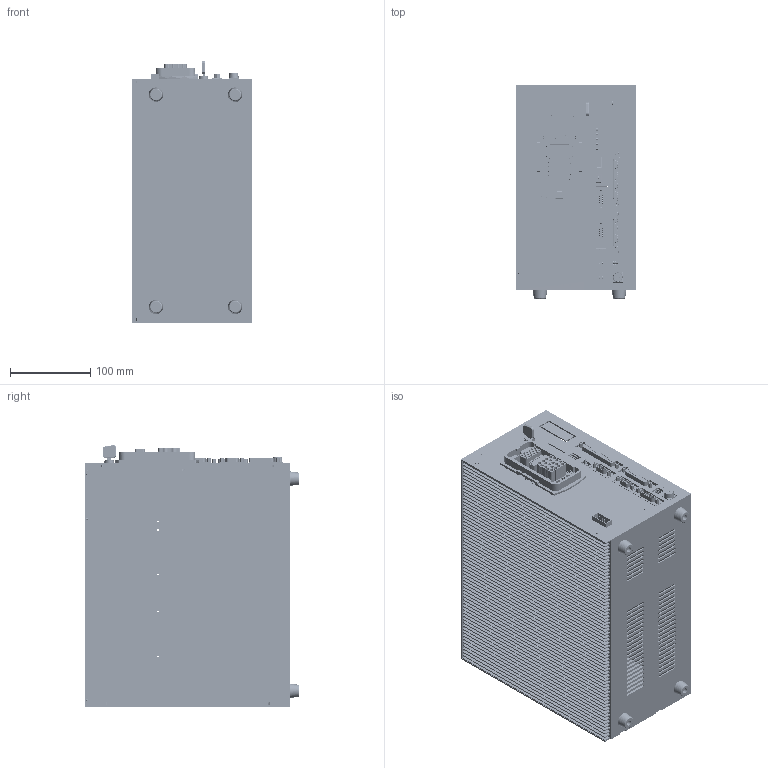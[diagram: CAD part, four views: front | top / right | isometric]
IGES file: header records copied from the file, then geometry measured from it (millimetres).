
Start section: ------------------------------------------------------------------------
Global section: file name: C:\Users\14979\Desktop\ŽÐ–¼‚È‚µver3DCAD\TSL3000_ŽÐ–¼‚È‚µver\TSL3000-outside_ŽÐ–¼‚È‚µver.igs; native system: spGate; preprocessor: ver15.6.2; author: Unknown; organization: Unknown; date: 200212.145634; units: millimetre
Bounding box: 150.16 x 266 x 325.61 mm (x, y, z)
Surface area: 1085676.7 mm2 (no closed solid volume)
Topology: 0 solids, 0 shells, 9658 faces, 51756 edges, 51618 vertices
Faces by surface type: bspline 9658
